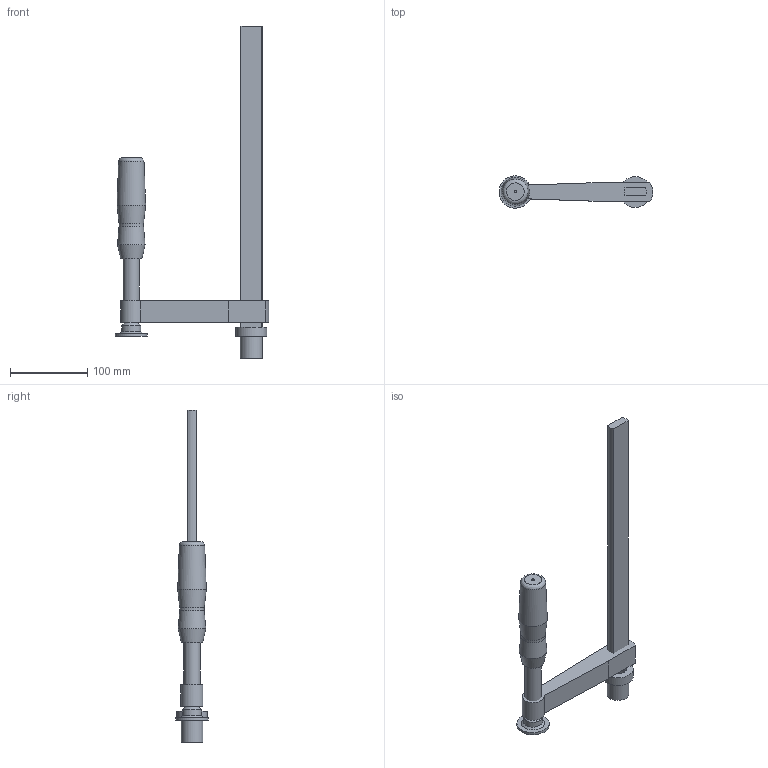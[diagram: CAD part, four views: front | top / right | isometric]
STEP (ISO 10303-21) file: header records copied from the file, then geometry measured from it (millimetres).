
FILE_DESCRIPTION( ('This file contains a STEP AP42 implementation' ,'as created by ZW3D STEP Interface translator.') ,'2;1' );
FILE_NAME( 'TW28-30-14-2K.stp' ,'14 317.111218', (''), ('ZWCAD Software Co.'), 'Version 1.0', 'ZW3D to STEP translator', '' );
FILE_SCHEMA( ('CONFIG_CONTROL_DESIGN') );
Length unit declared in the file: millimetre
Products named in the file (2): 0; 3205298 - TW28-30-14-2K unten
Bounding box: 198.57 x 41.72 x 429 mm (x, y, z)
Volume: 411303.6 mm3; surface area: 85052.2 mm2
Topology: 3 solids, 3 shells, 37 faces, 77 edges, 47 vertices
Faces by surface type: bspline 37
Entity records: 1307 total; most frequent: CARTESIAN_POINT 771, ORIENTED_EDGE 154, EDGE_CURVE 77, VERTEX_POINT 47, EDGE_LOOP 44, B_SPLINE_CURVE_WITH_KNOTS 40, FACE_OUTER_BOUND 37, ADVANCED_FACE 37
